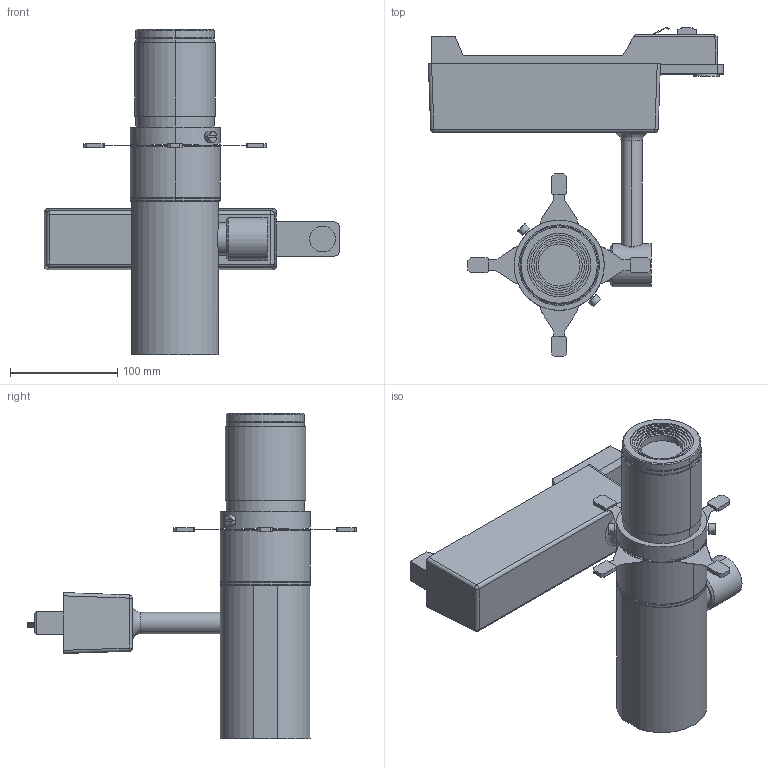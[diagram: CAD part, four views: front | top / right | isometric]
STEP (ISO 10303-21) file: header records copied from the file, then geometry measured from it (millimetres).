
FILE_DESCRIPTION (( 'STEP AP203' ), '1' );
FILE_NAME ('P1L (Track-W_Top Mount)_Hanging+36D_10-06-2026.STEP', '2026-06-10T08:54:08', ( '' ), ( '' ), 'SwSTEP 2.0', 'SolidWorks 2014', '' );
FILE_SCHEMA (( 'CONFIG_CONTROL_DESIGN' ));
Length unit declared in the file: millimetre
Products named in the file (4): Top Mount_Yoke+PSU_(Track-W); P1L (Track-W_Top Mount)_Hanging+36D_10-06-2026; 36D_Fresnel Lens_W_P1L; P1L - Light Body_W
Assembly tree (3 placements, depth 2):
  P1L (Track-W_Top Mount)_Hanging+36D_10-06-2026
    Top Mount_Yoke+PSU_(Track-W)
    P1L - Light Body_W
    36D_Fresnel Lens_W_P1L
Bounding box: 275.04 x 306.96 x 302.7 mm (x, y, z)
Volume: 2450653.1 mm3; surface area: 207181.2 mm2
Topology: 3 solids, 3 shells, 321 faces, 836 edges, 536 vertices
Faces by surface type: plane 204, cylinder 95, cone 16, sphere 4, torus 2
Entity records: 10410 total; most frequent: CARTESIAN_POINT 1957, DIRECTION 1708, ORIENTED_EDGE 1664, EDGE_CURVE 832, LINE 582, VECTOR 582, AXIS2_PLACEMENT_3D 563, VERTEX_POINT 536
